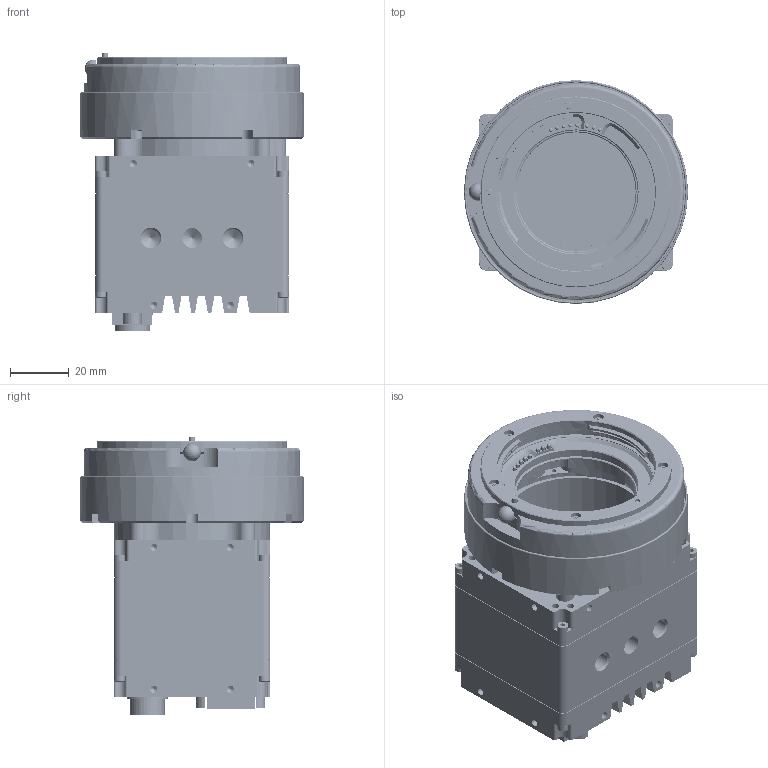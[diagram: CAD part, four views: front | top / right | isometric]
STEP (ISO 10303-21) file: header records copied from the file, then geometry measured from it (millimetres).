
FILE_DESCRIPTION (( 'STEP AP203' ), '1' );
FILE_NAME ('GT LF IMX EF-MOUNT MONO CAMERA.STEP', '2019-11-08T15:25:15', ( '' ), ( '' ), 'SwSTEP 2.0', 'SolidWorks 2018', '' );
FILE_SCHEMA (( 'CONFIG_CONTROL_DESIGN' ));
Products named in the file (1): GT LF IMX EF-MOUNT MONO CAMERA
Bounding box: 76.2 x 76.2 x 94.74 mm (x, y, z)
Volume: 140127.2 mm3; surface area: 119266.9 mm2
Topology: 400 solids, 400 shells, 26776 faces, 66859 edges, 43975 vertices
Faces by surface type: plane 18651, cylinder 5847, torus 1050, bspline 656, cone 390, sphere 182
Entity records: 825898 total; most frequent: CARTESIAN_POINT 179841, ORIENTED_EDGE 132814, DIRECTION 131313, EDGE_CURVE 66407, VECTOR 49783, LINE 49783, VERTEX_POINT 43805, AXIS2_PLACEMENT_3D 40765
